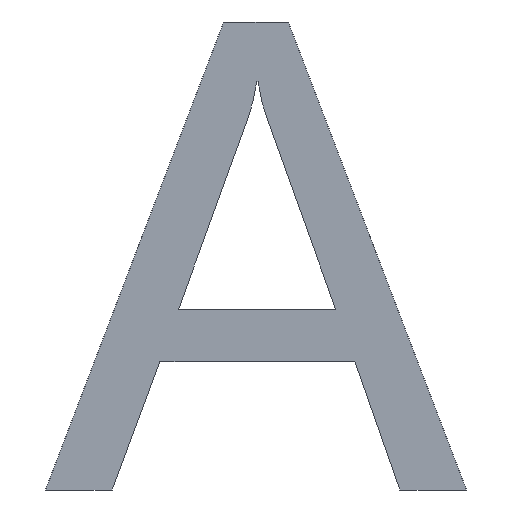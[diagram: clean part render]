
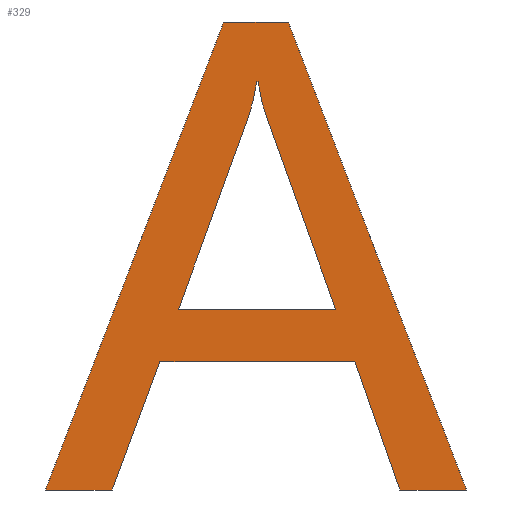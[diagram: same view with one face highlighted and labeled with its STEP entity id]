
A CAD part, left-side view. The second image highlights one B-rep face of the part: STEP entity #329.
In plain terms, the highlighted planar face has unit normal (-1, 0, 0).
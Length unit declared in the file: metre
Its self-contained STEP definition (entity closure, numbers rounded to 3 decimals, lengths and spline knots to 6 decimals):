
#12=B_SPLINE_CURVE_WITH_KNOTS('',3,(#540,#541,#542,#543),.UNSPECIFIED.,
 .F.,.F.,(4,4),(3.,4.),.UNSPECIFIED.);
#14=B_SPLINE_CURVE_WITH_KNOTS('',3,(#565,#566,#567,#568),.UNSPECIFIED.,
 .F.,.F.,(4,4),(1.,2.),.UNSPECIFIED.);
#74=ORIENTED_EDGE('',*,*,#102,.T.);
#75=ORIENTED_EDGE('',*,*,#118,.T.);
#76=ORIENTED_EDGE('',*,*,#115,.T.);
#77=ORIENTED_EDGE('',*,*,#112,.T.);
#78=ORIENTED_EDGE('',*,*,#109,.T.);
#79=ORIENTED_EDGE('',*,*,#106,.T.);
#80=ORIENTED_EDGE('',*,*,#142,.F.);
#81=ORIENTED_EDGE('',*,*,#120,.F.);
#82=ORIENTED_EDGE('',*,*,#124,.F.);
#83=ORIENTED_EDGE('',*,*,#127,.F.);
#84=ORIENTED_EDGE('',*,*,#130,.F.);
#85=ORIENTED_EDGE('',*,*,#133,.F.);
#86=ORIENTED_EDGE('',*,*,#136,.F.);
#87=ORIENTED_EDGE('',*,*,#139,.F.);
#102=EDGE_CURVE('',#144,#145,#172,.T.);
#106=EDGE_CURVE('',#148,#144,#12,.T.);
#109=EDGE_CURVE('',#150,#148,#177,.T.);
#112=EDGE_CURVE('',#152,#150,#14,.T.);
#115=EDGE_CURVE('',#154,#152,#181,.T.);
#118=EDGE_CURVE('',#145,#154,#184,.T.);
#120=EDGE_CURVE('',#156,#157,#186,.T.);
#124=EDGE_CURVE('',#160,#156,#190,.T.);
#127=EDGE_CURVE('',#162,#160,#193,.T.);
#130=EDGE_CURVE('',#164,#162,#196,.T.);
#133=EDGE_CURVE('',#166,#164,#199,.T.);
#136=EDGE_CURVE('',#168,#166,#202,.T.);
#139=EDGE_CURVE('',#170,#168,#205,.T.);
#142=EDGE_CURVE('',#157,#170,#208,.T.);
#144=VERTEX_POINT('',#525);
#145=VERTEX_POINT('',#526);
#148=VERTEX_POINT('',#544);
#150=VERTEX_POINT('',#553);
#152=VERTEX_POINT('',#569);
#154=VERTEX_POINT('',#578);
#156=VERTEX_POINT('',#587);
#157=VERTEX_POINT('',#588);
#160=VERTEX_POINT('',#596);
#162=VERTEX_POINT('',#602);
#164=VERTEX_POINT('',#608);
#166=VERTEX_POINT('',#614);
#168=VERTEX_POINT('',#620);
#170=VERTEX_POINT('',#626);
#172=LINE('',#524,#210);
#177=LINE('',#552,#215);
#181=LINE('',#577,#219);
#184=LINE('',#583,#222);
#186=LINE('',#586,#224);
#190=LINE('',#595,#228);
#193=LINE('',#601,#231);
#196=LINE('',#607,#234);
#199=LINE('',#613,#237);
#202=LINE('',#619,#240);
#205=LINE('',#625,#243);
#208=LINE('',#631,#246);
#210=VECTOR('',#458,1.);
#215=VECTOR('',#465,1.);
#219=VECTOR('',#471,1.);
#222=VECTOR('',#476,1.);
#224=VECTOR('',#480,1.);
#228=VECTOR('',#486,1.);
#231=VECTOR('',#491,1.);
#234=VECTOR('',#496,1.);
#237=VECTOR('',#501,1.);
#240=VECTOR('',#506,1.);
#243=VECTOR('',#511,1.);
#246=VECTOR('',#516,1.);
#262=EDGE_LOOP('',(#74,#75,#76,#77,#78,#79));
#263=EDGE_LOOP('',(#80,#81,#82,#83,#84,#85,#86,#87));
#280=FACE_BOUND('',#262,.T.);
#281=FACE_BOUND('',#263,.T.);
#296=PLANE('',#452);
#329=ADVANCED_FACE('',(#280,#281),#296,.T.);
#452=AXIS2_PLACEMENT_3D('',#633,#518,#519);
#458=DIRECTION('',(0.,-0.339,-0.941));
#465=DIRECTION('',(0.,-1.,0.));
#471=DIRECTION('',(0.,-0.342,0.94));
#476=DIRECTION('',(0.,1.,0.));
#480=DIRECTION('',(0.,1.,0.));
#486=DIRECTION('',(0.,0.349,-0.937));
#491=DIRECTION('',(0.,1.,0.));
#496=DIRECTION('',(0.,0.332,0.943));
#501=DIRECTION('',(0.,1.,0.));
#506=DIRECTION('',(0.,-0.356,-0.935));
#511=DIRECTION('',(0.,-1.,0.));
#516=DIRECTION('',(0.,-0.356,0.935));
#518=DIRECTION('',(-1.,0.,0.));
#519=DIRECTION('',(0.,0.,1.));
#524=CARTESIAN_POINT('',(-0.056786,-0.01096,0.013839));
#525=CARTESIAN_POINT('',(-0.056786,-0.01096,0.013839));
#526=CARTESIAN_POINT('',(-0.056786,-0.01102,0.01367));
#540=CARTESIAN_POINT('',(-0.056786,-0.010953,0.013867));
#541=CARTESIAN_POINT('',(-0.056786,-0.010955,0.013855));
#542=CARTESIAN_POINT('',(-0.056786,-0.010957,0.013846));
#543=CARTESIAN_POINT('',(-0.056786,-0.01096,0.013839));
#544=CARTESIAN_POINT('',(-0.056786,-0.010953,0.013867));
#552=CARTESIAN_POINT('',(-0.056786,-0.010952,0.013867));
#553=CARTESIAN_POINT('',(-0.056786,-0.010952,0.013867));
#565=CARTESIAN_POINT('',(-0.056786,-0.010945,0.013839));
#566=CARTESIAN_POINT('',(-0.056786,-0.010947,0.013844));
#567=CARTESIAN_POINT('',(-0.056786,-0.010949,0.013854));
#568=CARTESIAN_POINT('',(-0.056786,-0.010952,0.013867));
#569=CARTESIAN_POINT('',(-0.056786,-0.010945,0.013839));
#577=CARTESIAN_POINT('',(-0.056786,-0.010884,0.01367));
#578=CARTESIAN_POINT('',(-0.056786,-0.010884,0.01367));
#583=CARTESIAN_POINT('',(-0.056786,-0.01102,0.01367));
#586=CARTESIAN_POINT('',(-0.056786,-0.010768,0.013513));
#587=CARTESIAN_POINT('',(-0.056786,-0.010826,0.013513));
#588=CARTESIAN_POINT('',(-0.056786,-0.010768,0.013513));
#595=CARTESIAN_POINT('',(-0.056786,-0.010826,0.013513));
#596=CARTESIAN_POINT('',(-0.056786,-0.010868,0.013624));
#601=CARTESIAN_POINT('',(-0.056786,-0.010868,0.013624));
#602=CARTESIAN_POINT('',(-0.056786,-0.011037,0.013624));
#607=CARTESIAN_POINT('',(-0.056786,-0.011037,0.013624));
#608=CARTESIAN_POINT('',(-0.056786,-0.011076,0.013513));
#613=CARTESIAN_POINT('',(-0.056786,-0.011076,0.013513));
#614=CARTESIAN_POINT('',(-0.056786,-0.011134,0.013513));
#619=CARTESIAN_POINT('',(-0.056786,-0.011134,0.013513));
#620=CARTESIAN_POINT('',(-0.056786,-0.010979,0.013919));
#625=CARTESIAN_POINT('',(-0.056786,-0.010979,0.013919));
#626=CARTESIAN_POINT('',(-0.056786,-0.010923,0.013919));
#631=CARTESIAN_POINT('',(-0.056786,-0.010923,0.013919));
#633=CARTESIAN_POINT('',(-0.056786,-0.006593,0.0092));
